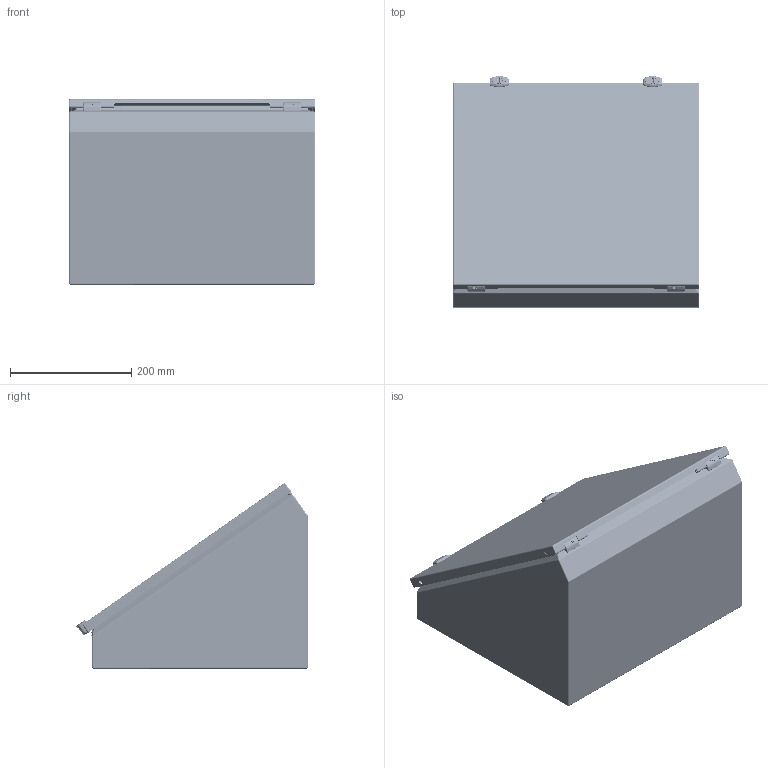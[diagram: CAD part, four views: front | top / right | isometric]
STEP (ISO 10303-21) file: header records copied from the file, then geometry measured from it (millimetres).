
FILE_DESCRIPTION(/* description */ ('1412CSS 16" x 16" x 11.725" Assembly'),/* implementation_level */ '2;1');
FILE_NAME(/* name */ 'C:\Vault_Workspace\Inventor_Dwg\BoxCad\Result\1412CSS161611\e-mail\3D\1412CSS161611.stp',/* time_stamp */ '2022-04-07T21:24:53-04:00',/* author */ ('BoxCad'),/* organization */ (''),/* preprocessor_version */ 'ST-DEVELOPER v18.1',/* originating_system */ 'Autodesk Inventor 2020',/* authorisation */ '');
FILE_SCHEMA (('AUTOMOTIVE_DESIGN { 1 0 10303 214 3 1 1 }'));
Products named in the file (49): 1412CSS161611; 1412CSS161611B; 1412CSS161611B-P; STK-S-00100; STK-Q-08500; STK-A-70469-1; STK-Q-08100-1; STK-A-70469-2; STK-Q-70469-P; STK-Q-70469-S; STK-Q-70469-O; STK-Q-08100-2; STUD_SS_M5 x 12mm; 1412CSS161611C; 1412CSS161611C-P; 1412CSS161611G; STK-A-33038-1; STK-A-33038-2; STK-Q-33038-B; STK-Q-33038-S; STK-Q-33038-G; STK-Q-46020-12; STK-Q-07220-1; STK-Q-07220-2; STK-Q-07220-3; STK-Q-07220-4; STK-Q-07220-A; STK-Q-07220-B; STANDOFF_SS_M6 x 10mm; STK-A-880SCQ3MS-1; STK-A-880SCQ3MS-2; STK-Q-79961-A; STK-Q-79961-B; STK-Q-70820; STK-Q-16070; STK-Q-08100-5; STK-Q-08100-4; STK-A-GASSPRING_1500CS_L; STK-A-GASSPRING_1500CS_R; STK-Q-62900-A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
Assembly tree (94 placements, depth 4):
  1412CSS161611
    1412CSS161611B
      1412CSS161611B-P
      STK-S-00100
      STK-Q-08500
      STK-A-70469-1
        STK-Q-70469-P
        STK-Q-70469-S
        STK-Q-70469-O
      STK-Q-08100-1
        STK-Q-08100-A
        STK-Q-08100-B
      STK-A-70469-2
        STK-Q-70469-P
        STK-Q-70469-S
        STK-Q-70469-O
      STK-Q-08100-2
        STK-Q-08100-A
        STK-Q-08100-B
      STUD_SS_M5 x 12mm  x4
    1412CSS161611C
      1412CSS161611C-P
      1412CSS161611G
      STK-A-33038-1
        STK-Q-33038-B
        STK-Q-33038-S
        STK-Q-33038-G
      STK-A-33038-2
        STK-Q-33038-B
        STK-Q-33038-S
        STK-Q-33038-G
      STK-Q-46020-12  x2
      STK-Q-07220-1
        STK-Q-07220-A
        STK-Q-07220-B
      STK-Q-07220-2
        STK-Q-07220-A
        STK-Q-07220-B
      STK-Q-07220-3
        STK-Q-07220-A
        STK-Q-07220-B
      STK-Q-07220-4
        STK-Q-07220-A
        STK-Q-07220-B
      STANDOFF_SS_M6 x 10mm
      STK-A-880SCQ3MS-1
        STK-Q-79961-A
        STK-Q-79961-B
        STK-Q-70820
      STK-A-880SCQ3MS-2
        STK-Q-79961-A
        STK-Q-79961-B
        STK-Q-70820
      STK-Q-16070  x4
    STK-Q-08100-5
      STK-Q-08100-A
      STK-Q-08100-B
    STK-Q-08100-4
      STK-Q-08100-A
      STK-Q-08100-B
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Bounding box: 406.4 x 382.25 x 306.2 mm (x, y, z)
Volume: 1048088 mm3; surface area: 1443884.6 mm2
Topology: 80 solids, 80 shells, 9459 faces, 24594 edges, 15149 vertices
Faces by surface type: plane 3639, cylinder 2637, bspline 2203, torus 540, sphere 332, cone 108
Full cylindrical faces by diameter (mm): 0.75 x8, 0.762 x10, 0.9 x2, 3 x14, 3.175 x2, 3.25 x2, 4.191 x16, 4.2 x8, 4.4 x24, 4.45 x2, 4.8 x12, 4.9 x34, 5 x8, 5.1 x22, 5.156 x4, 5.2 x4, 5.537 x2, 5.9 x4, 6 x20, 6.015 x16, 6.1 x2, 6.8 x4, 7.5 x4, 7.62 x8, 7.9 x4, 7.925 x4, 8 x8, 8.382 x2, 8.6 x2, 9.5 x4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
Entity records: 146822 total; most frequent: CARTESIAN_POINT 49987, ORIENTED_EDGE 20896, DIRECTION 18149, EDGE_CURVE 10448, VERTEX_POINT 6568, AXIS2_PLACEMENT_3D 6327, LINE 5495, VECTOR 5495
